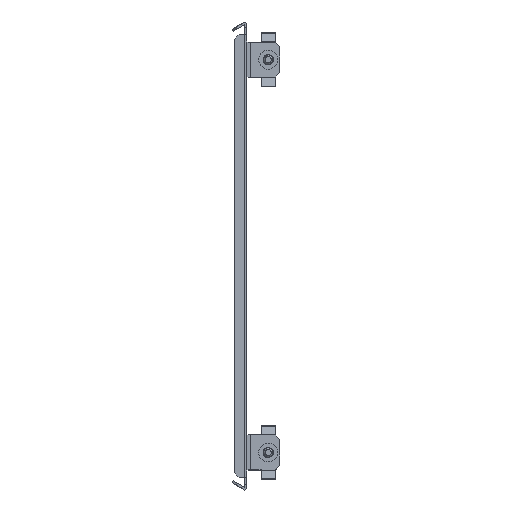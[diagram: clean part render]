
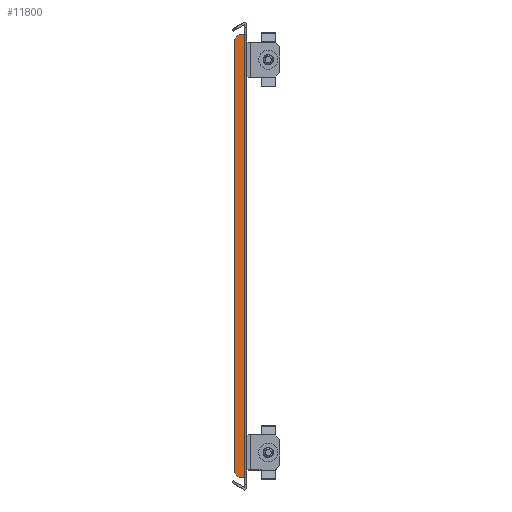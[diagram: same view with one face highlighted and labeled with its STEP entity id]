
A CAD part, front view. The second image highlights one B-rep face of the part: STEP entity #11800.
In plain terms, the highlighted planar face has unit normal (0, -1, 0).
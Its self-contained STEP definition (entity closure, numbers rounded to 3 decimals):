
#645 = DIRECTION ( 'NONE',  ( 0., 0., -1. ) ) ;
#846 = VERTEX_POINT ( 'NONE', #10128 ) ;
#1095 = CARTESIAN_POINT ( 'NONE',  ( -8., -353., -137.897 ) ) ;
#1264 = CARTESIAN_POINT ( 'NONE',  ( 0., -353., 140.897 ) ) ;
#1920 = LINE ( 'NONE', #6652, #10947 ) ;
#2312 = DIRECTION ( 'NONE',  ( -0.707, 0., -0.707 ) ) ;
#2587 = LINE ( 'NONE', #11614, #16824 ) ;
#3483 = VERTEX_POINT ( 'NONE', #1264 ) ;
#4068 = PLANE ( 'NONE',  #16752 ) ;
#4228 = EDGE_CURVE ( 'NONE', #15842, #18754, #28756, .T. ) ;
#4409 = ORIENTED_EDGE ( 'NONE', *, *, #17690, .T. ) ;
#4705 = VECTOR ( 'NONE', #2312, 1000. ) ;
#4804 = ORIENTED_EDGE ( 'NONE', *, *, #15140, .T. ) ;
#5179 = CARTESIAN_POINT ( 'NONE',  ( -5., -353., 140.897 ) ) ;
#5287 = EDGE_CURVE ( 'NONE', #29078, #16508, #14844, .T. ) ;
#5940 = DIRECTION ( 'NONE',  ( 0., 0., 1. ) ) ;
#6057 = EDGE_LOOP ( 'NONE', ( #22231, #25103, #11590, #4409, #24325, #4804, #29265, #28350, #22646, #7295 ) ) ;
#6652 = CARTESIAN_POINT ( 'NONE',  ( 0., -353., -140.897 ) ) ;
#7295 = ORIENTED_EDGE ( 'NONE', *, *, #24724, .T. ) ;
#7521 = LINE ( 'NONE', #27714, #12257 ) ;
#8264 = CARTESIAN_POINT ( 'NONE',  ( -8., -353., 0. ) ) ;
#8428 = DIRECTION ( 'NONE',  ( -1., 0., 0. ) ) ;
#8878 = CARTESIAN_POINT ( 'NONE',  ( -8., -353., 137.897 ) ) ;
#9832 = CARTESIAN_POINT ( 'NONE',  ( 0., -353., 0. ) ) ;
#9936 = VERTEX_POINT ( 'NONE', #5179 ) ;
#9984 = LINE ( 'NONE', #9832, #20371 ) ;
#10128 = CARTESIAN_POINT ( 'NONE',  ( 0., -353., 136.095 ) ) ;
#10802 = DIRECTION ( 'NONE',  ( 1., 0., 0. ) ) ;
#10947 = VECTOR ( 'NONE', #10802, 1000. ) ;
#11238 = CARTESIAN_POINT ( 'NONE',  ( 0., -353., -140.897 ) ) ;
#11590 = ORIENTED_EDGE ( 'NONE', *, *, #26252, .F. ) ;
#11614 = CARTESIAN_POINT ( 'NONE',  ( 0., -353., 0. ) ) ;
#11800 = ADVANCED_FACE ( 'NONE', ( #18026 ), #4068, .F. ) ;
#12183 = VERTEX_POINT ( 'NONE', #13210 ) ;
#12257 = VECTOR ( 'NONE', #25637, 1000. ) ;
#12522 = CARTESIAN_POINT ( 'NONE',  ( 0., -353., -136.095 ) ) ;
#12664 = EDGE_CURVE ( 'NONE', #16968, #29078, #1920, .T. ) ;
#12832 = CARTESIAN_POINT ( 'NONE',  ( -72.948, -353., -72.948 ) ) ;
#13041 = VECTOR ( 'NONE', #5940, 1000. ) ;
#13196 = VECTOR ( 'NONE', #21477, 1000. ) ;
#13210 = CARTESIAN_POINT ( 'NONE',  ( 0., -353., -113.75 ) ) ;
#14844 = LINE ( 'NONE', #27899, #13041 ) ;
#15140 = EDGE_CURVE ( 'NONE', #846, #3483, #2587, .T. ) ;
#15270 = DIRECTION ( 'NONE',  ( 0., 0., -1. ) ) ;
#15842 = VERTEX_POINT ( 'NONE', #8878 ) ;
#16508 = VERTEX_POINT ( 'NONE', #12522 ) ;
#16752 = AXIS2_PLACEMENT_3D ( 'NONE', #24678, #22766, #27052 ) ;
#16824 = VECTOR ( 'NONE', #20693, 1000. ) ;
#16968 = VERTEX_POINT ( 'NONE', #24617 ) ;
#17431 = LINE ( 'NONE', #12832, #26885 ) ;
#17690 = EDGE_CURVE ( 'NONE', #12183, #25656, #25899, .T. ) ;
#18026 = FACE_OUTER_BOUND ( 'NONE', #6057, .T. ) ;
#18034 = EDGE_CURVE ( 'NONE', #9936, #15842, #22626, .T. ) ;
#18190 = VECTOR ( 'NONE', #15270, 1000. ) ;
#18754 = VERTEX_POINT ( 'NONE', #1095 ) ;
#19113 = CARTESIAN_POINT ( 'NONE',  ( 0., -353., 0. ) ) ;
#19726 = CARTESIAN_POINT ( 'NONE',  ( 0., -353., 113.75 ) ) ;
#19730 = LINE ( 'NONE', #28769, #23019 ) ;
#20371 = VECTOR ( 'NONE', #645, 1000. ) ;
#20558 = EDGE_CURVE ( 'NONE', #3483, #9936, #19730, .T. ) ;
#20693 = DIRECTION ( 'NONE',  ( 0., 0., 1. ) ) ;
#20861 = CARTESIAN_POINT ( 'NONE',  ( -72.948, -353., 72.948 ) ) ;
#21477 = DIRECTION ( 'NONE',  ( 0., 0., 1. ) ) ;
#22231 = ORIENTED_EDGE ( 'NONE', *, *, #12664, .T. ) ;
#22330 = EDGE_CURVE ( 'NONE', #25656, #846, #7521, .T. ) ;
#22626 = LINE ( 'NONE', #20861, #4705 ) ;
#22646 = ORIENTED_EDGE ( 'NONE', *, *, #4228, .T. ) ;
#22766 = DIRECTION ( 'NONE',  ( 0., 1., 0. ) ) ;
#23019 = VECTOR ( 'NONE', #8428, 1000. ) ;
#24325 = ORIENTED_EDGE ( 'NONE', *, *, #22330, .T. ) ;
#24617 = CARTESIAN_POINT ( 'NONE',  ( -5., -353., -140.897 ) ) ;
#24678 = CARTESIAN_POINT ( 'NONE',  ( 0., -353., 0. ) ) ;
#24724 = EDGE_CURVE ( 'NONE', #18754, #16968, #17431, .T. ) ;
#25103 = ORIENTED_EDGE ( 'NONE', *, *, #5287, .T. ) ;
#25637 = DIRECTION ( 'NONE',  ( 0., 0., 1. ) ) ;
#25656 = VERTEX_POINT ( 'NONE', #19726 ) ;
#25899 = LINE ( 'NONE', #19113, #13196 ) ;
#26252 = EDGE_CURVE ( 'NONE', #12183, #16508, #9984, .T. ) ;
#26885 = VECTOR ( 'NONE', #26899, 1000. ) ;
#26899 = DIRECTION ( 'NONE',  ( 0.707, 0., -0.707 ) ) ;
#27052 = DIRECTION ( 'NONE',  ( 1., 0., 0. ) ) ;
#27714 = CARTESIAN_POINT ( 'NONE',  ( 0., -353., 0. ) ) ;
#27899 = CARTESIAN_POINT ( 'NONE',  ( 0., -353., 0. ) ) ;
#28350 = ORIENTED_EDGE ( 'NONE', *, *, #18034, .T. ) ;
#28756 = LINE ( 'NONE', #8264, #18190 ) ;
#28769 = CARTESIAN_POINT ( 'NONE',  ( 0., -353., 140.897 ) ) ;
#29078 = VERTEX_POINT ( 'NONE', #11238 ) ;
#29265 = ORIENTED_EDGE ( 'NONE', *, *, #20558, .T. ) ;
